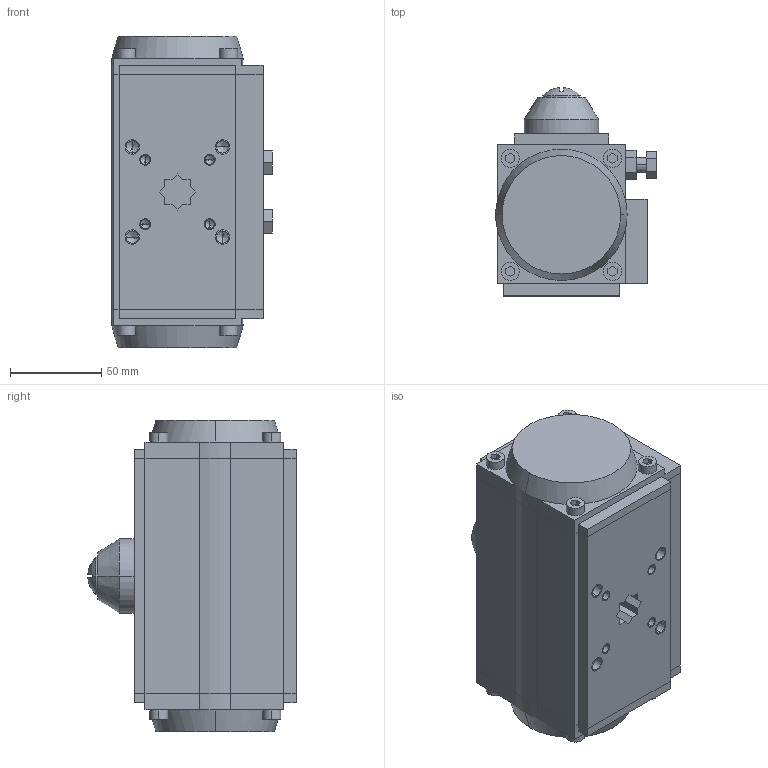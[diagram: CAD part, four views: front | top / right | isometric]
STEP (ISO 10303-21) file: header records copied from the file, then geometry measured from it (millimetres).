
FILE_DESCRIPTION((''),'2;1');
FILE_NAME('SB_PNEVMOPRIVOD_ASM','2024-04-10T',('DIMA'),(''),'PRO/ENGINEER BY PARAMETRIC TECHNOLOGY CORPORATION, 2008020','PRO/ENGINEER BY PARAMETRIC TECHNOLOGY CORPORATION, 2008020','');
FILE_SCHEMA(('CONFIG_CONTROL_DESIGN'));
Length unit declared in the file: millimetre
Products named in the file (7): KORPUS_PNEVMOPRIVOD; KOLCO_18_GOST13942; KRISKA_VERX; VINT; KRISKA_LEFT; KRISKA_RIGHT; SB_PNEVMOPRIVOD_ASM
Assembly tree (6 placements, depth 2):
  SB_PNEVMOPRIVOD_ASM
    KORPUS_PNEVMOPRIVOD
    KOLCO_18_GOST13942
    KRISKA_VERX
    VINT
    KRISKA_LEFT
    KRISKA_RIGHT
Bounding box: 88 x 114.43 x 171 mm (x, y, z)
Volume: 1063513.4 mm3; surface area: 115219.7 mm2
Topology: 6 solids, 28 shells, 422 faces, 1070 edges, 691 vertices
Faces by surface type: plane 237, cylinder 137, cone 46, sphere 2
Entity records: 12682 total; most frequent: DIRECTION 2248, CARTESIAN_POINT 2228, ORIENTED_EDGE 1972, EDGE_CURVE 1032, AXIS2_PLACEMENT_3D 785, VERTEX_POINT 691, VECTOR 678, LINE 678
